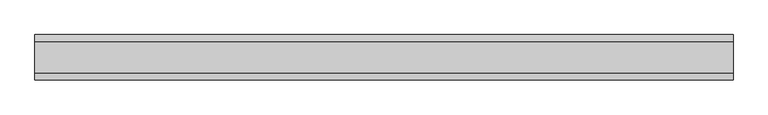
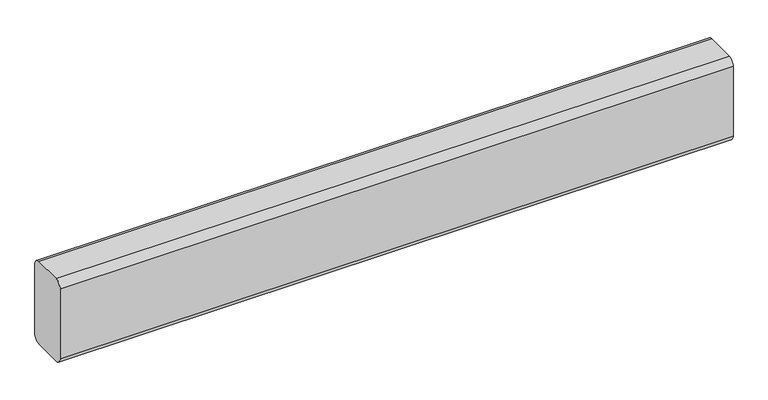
"""IFC4 building model written with IfcOpenShell, lengths in millimetres: proxy geometry, GROUTED CMU CELLS_horizontal : GROUTED CMU CELLS_horizontal."""

from ifc_helpers import new_model, si_unit, point, frame, frame_2d, origin, place, context, project, spatial, polyline, circle_curve, trimmed, segment, composite_curve, outline, extrude, source, transform, mapped, element, save


def generic_models_feac69a9(model_context):
    return source(origin(), model_context, "Body", "SweptSolid", [
        extrude(outline(composite_curve([segment(trimmed(circle_curve(frame_2d((34.925, -85.725)), 15.875), [point((50.8, -85.725))], [point((34.925, -101.6))], False, "CARTESIAN"), True, "CONTINUOUS"), segment(polyline([(34.925, -101.6), (-34.925, -101.6)]), True, "CONTINUOUS"), segment(trimmed(circle_curve(frame_2d((-34.925, -85.725)), 15.875), [point((-34.925, -101.6))], [point((-50.8, -85.725))], False, "CARTESIAN"), True, "CONTINUOUS"), segment(polyline([(-50.8, -85.725), (-50.8, 85.725)]), True, "CONTINUOUS"), segment(trimmed(circle_curve(frame_2d((-34.925, 85.725)), 15.875), [point((-50.8, 85.725))], [point((-34.925, 101.6))], False, "CARTESIAN"), True, "CONTINUOUS"), segment(polyline([(-34.925, 101.6), (34.925, 101.6)]), True, "CONTINUOUS"), segment(trimmed(circle_curve(frame_2d((34.925, 85.725)), 15.875), [point((34.925, 101.6))], [point((50.8, 85.725))], False, "CARTESIAN"), True, "CONTINUOUS"), segment(polyline([(50.8, 85.725), (50.8, -85.725)]), True, "CONTINUOUS")], self_intersect=False)), frame((0.0, 0.0, 0.0), z_axis=(1.0, 0.0, 0.0), x_axis=(0.0, 1.0, 0.0)), (0.0, 0.0, 1.0), 1563.8911348),
    ])


if __name__ == "__main__":
    model = new_model("IFC4")
    model_context = context("Model", 3, world=origin())
    ifc_project = project(units=[si_unit("LENGTHUNIT", "METRE", prefix="MILLI")], contexts=[model_context])
    site = spatial("IfcSite", under=ifc_project)
    building = spatial("IfcBuilding", under=site)
    placement = place(None, origin())
    generic_models_shape = generic_models_feac69a9(model_context)
    element("IfcBuildingElementProxy", 1, Name="GROUTED CMU CELLS_horizontal : GROUTED CMU CELLS_horizontal", ObjectType="GROUTED CMU CELLS_horizontal : GROUTED CMU CELLS_horizontal", at=placement, inside=building, context=model_context, shape_type="MappedRepresentation", body=[
        mapped(generic_models_shape, transform((0.0, 0.0, 0.0), x_axis=(1.0, 0.0, 0.0), y_axis=(0.0, 1.0, 0.0), z_axis=(0.0, 0.0, 1.0))),
    ])
    save(model, "model.ifc")
